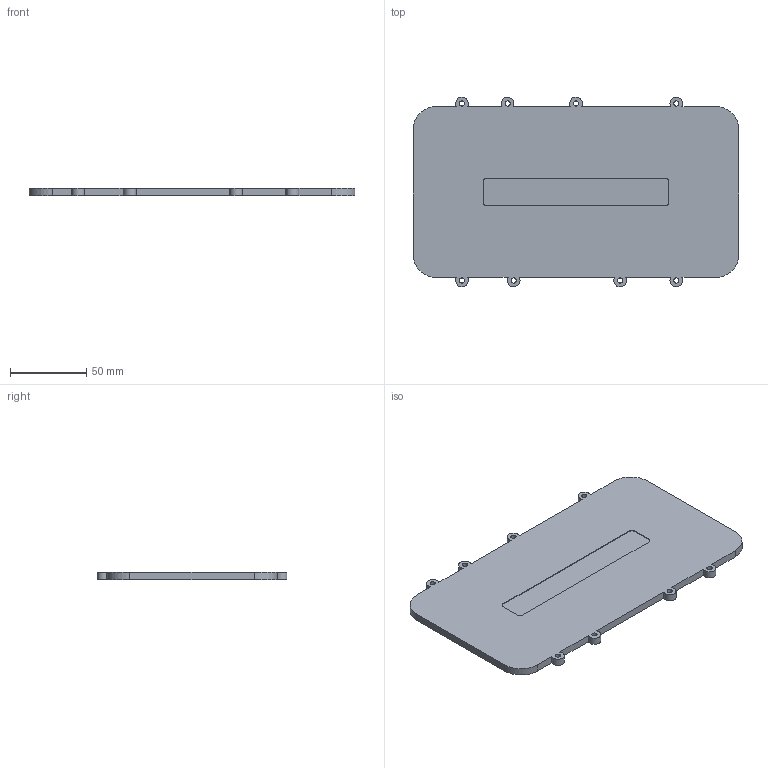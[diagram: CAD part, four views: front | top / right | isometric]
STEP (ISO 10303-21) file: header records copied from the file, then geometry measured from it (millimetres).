
FILE_DESCRIPTION(('FreeCAD Model'),'2;1');
FILE_NAME('Open CASCADE Shape Model','2026-09-10T22:55:31',( '' ),( '' ),'Open CASCADE STEP processor 7.8','FreeCAD','Unknown');
FILE_SCHEMA(('AUTOMOTIVE_DESIGN { 1 0 10303 214 1 1 1 1 }'));
Length unit declared in the file: millimetre
Products named in the file (1): Open CASCADE STEP translator 7.8 11
Bounding box: 214.4 x 124.8 x 5 mm (x, y, z)
Volume: 114403.8 mm3; surface area: 54894 mm2
Topology: 1 solids, 1 shells, 77 faces, 216 edges, 144 vertices
Faces by surface type: cylinder 40, plane 29, torus 8
Full cylindrical faces by diameter (mm): 3.4 x8
Entity records: 2576 total; most frequent: DIRECTION 476, CARTESIAN_POINT 438, ORIENTED_EDGE 432, EDGE_CURVE 216, AXIS2_PLACEMENT_3D 182, VERTEX_POINT 144, LINE 112, VECTOR 112
